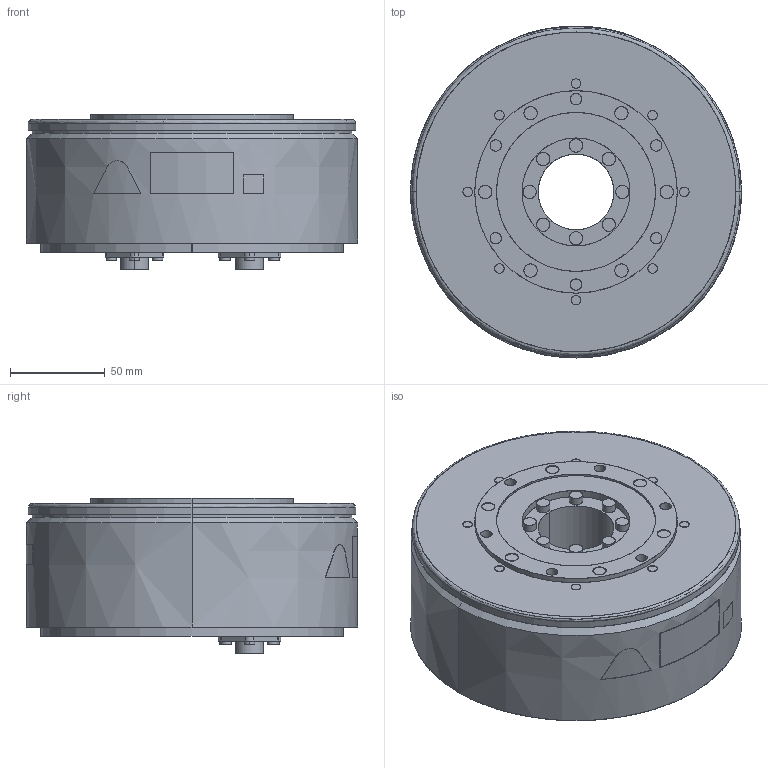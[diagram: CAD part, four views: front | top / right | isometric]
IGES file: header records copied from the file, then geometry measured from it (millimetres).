
Start section: SolidWorks IGES file using analytic representation for surfaces
Global section: file name: D:\YASKAWA\sgm7f_08c_a1_.IGS; native system: SolidWorks 2006 by SolidWorks Corporation; preprocessor: SolidWorks 2006 by SolidWorks Corporation; author: yamanouchi; date: 160724.152649; units: millimetre
Bounding box: 175 x 175.4 x 82.1 mm (x, y, z)
Surface area: 126488.8 mm2 (no closed solid volume)
Topology: 0 solids, 0 shells, 326 faces, 6663 edges, 6663 vertices
Faces by surface type: revolution 186, bspline 140
